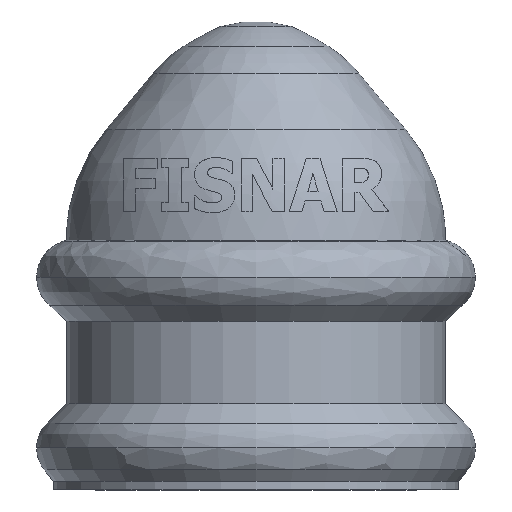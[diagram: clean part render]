
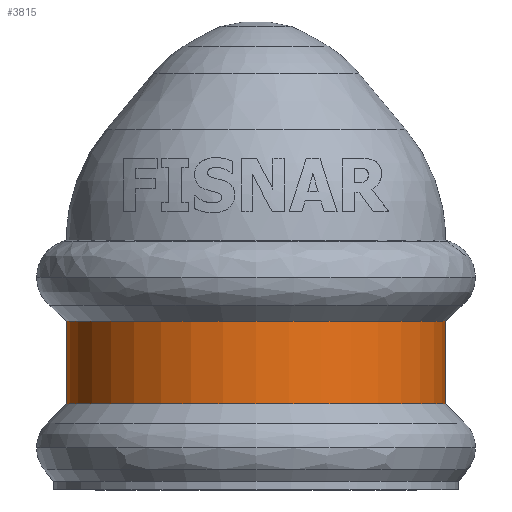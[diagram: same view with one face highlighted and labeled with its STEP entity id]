
A CAD part, front view. The second image highlights one B-rep face of the part: STEP entity #3815.
In plain terms, the highlighted cylindrical face has radius 5.702 mm (diameter 11.403 mm), a partial arc.
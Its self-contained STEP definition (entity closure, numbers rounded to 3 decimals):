
#133 = DIRECTION ( 'NONE',  ( 0., 0., 1. ) ) ;
#237 = CARTESIAN_POINT ( 'NONE',  ( 21.129, 0., 5.09 ) ) ;
#471 = DIRECTION ( 'NONE',  ( -1., 0., 0. ) ) ;
#699 = CARTESIAN_POINT ( 'NONE',  ( 21.129, 0., 0. ) ) ;
#708 = DIRECTION ( 'NONE',  ( 0., 0., 1. ) ) ;
#946 = AXIS2_PLACEMENT_3D ( 'NONE', #237, #3497, #5710 ) ;
#1170 = EDGE_CURVE ( 'NONE', #3015, #2313, #4646, .T. ) ;
#1280 = CYLINDRICAL_SURFACE ( 'NONE', #5058, 5.702 ) ;
#1308 = EDGE_CURVE ( 'NONE', #3015, #2116, #1360, .T. ) ;
#1334 = AXIS2_PLACEMENT_3D ( 'NONE', #4266, #6965, #471 ) ;
#1360 = LINE ( 'NONE', #1826, #3735 ) ;
#1826 = CARTESIAN_POINT ( 'NONE',  ( 26.83, 0., 0. ) ) ;
#1926 = VECTOR ( 'NONE', #4452, 1000. ) ;
#2116 = VERTEX_POINT ( 'NONE', #2357 ) ;
#2313 = VERTEX_POINT ( 'NONE', #6997 ) ;
#2357 = CARTESIAN_POINT ( 'NONE',  ( 26.83, 0., 5.09 ) ) ;
#2747 = EDGE_CURVE ( 'NONE', #2313, #6946, #3381, .T. ) ;
#2962 = DIRECTION ( 'NONE',  ( 1., 0., 0. ) ) ;
#3015 = VERTEX_POINT ( 'NONE', #3626 ) ;
#3288 = ORIENTED_EDGE ( 'NONE', *, *, #4528, .T. ) ;
#3381 = LINE ( 'NONE', #6030, #1926 ) ;
#3497 = DIRECTION ( 'NONE',  ( 0., 0., -1. ) ) ;
#3626 = CARTESIAN_POINT ( 'NONE',  ( 26.83, 0., 2.606 ) ) ;
#3675 = CIRCLE ( 'NONE', #946, 5.702 ) ;
#3735 = VECTOR ( 'NONE', #708, 1000. ) ;
#3815 = ADVANCED_FACE ( 'NONE', ( #4603 ), #1280, .T. ) ;
#4266 = CARTESIAN_POINT ( 'NONE',  ( 21.129, 0., 2.606 ) ) ;
#4276 = ORIENTED_EDGE ( 'NONE', *, *, #1170, .F. ) ;
#4452 = DIRECTION ( 'NONE',  ( 0., 0., 1. ) ) ;
#4528 = EDGE_CURVE ( 'NONE', #2116, #6946, #3675, .T. ) ;
#4549 = ORIENTED_EDGE ( 'NONE', *, *, #1308, .T. ) ;
#4603 = FACE_OUTER_BOUND ( 'NONE', #5081, .T. ) ;
#4646 = CIRCLE ( 'NONE', #1334, 5.702 ) ;
#5058 = AXIS2_PLACEMENT_3D ( 'NONE', #699, #133, #2962 ) ;
#5081 = EDGE_LOOP ( 'NONE', ( #5427, #4276, #4549, #3288 ) ) ;
#5427 = ORIENTED_EDGE ( 'NONE', *, *, #2747, .F. ) ;
#5710 = DIRECTION ( 'NONE',  ( 1., 0., 0. ) ) ;
#5883 = CARTESIAN_POINT ( 'NONE',  ( 15.427, 0., 5.09 ) ) ;
#6030 = CARTESIAN_POINT ( 'NONE',  ( 15.427, 0., 0. ) ) ;
#6946 = VERTEX_POINT ( 'NONE', #5883 ) ;
#6965 = DIRECTION ( 'NONE',  ( 0., 0., -1. ) ) ;
#6997 = CARTESIAN_POINT ( 'NONE',  ( 15.427, 0., 2.606 ) ) ;
